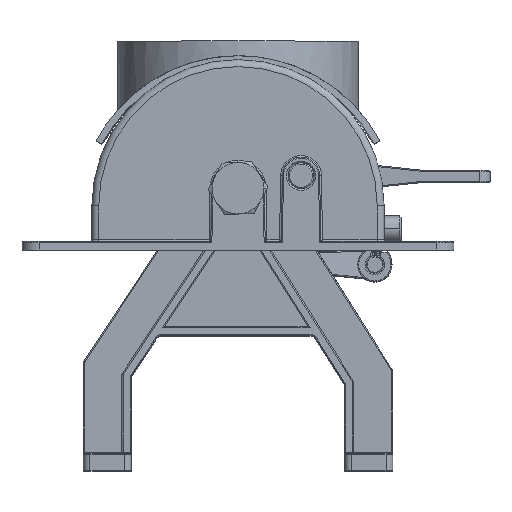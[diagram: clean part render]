
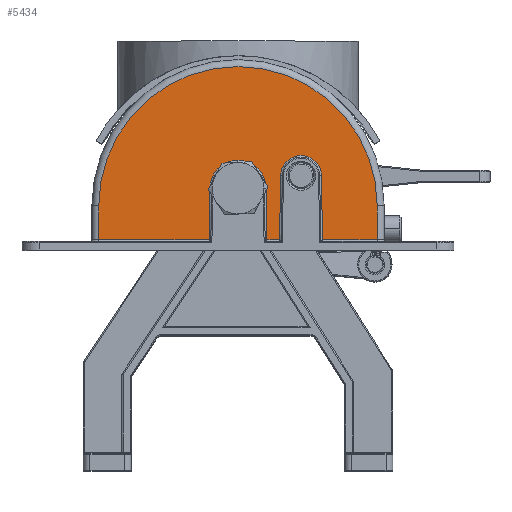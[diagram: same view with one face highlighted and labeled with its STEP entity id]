
A CAD part, top view. The second image highlights one B-rep face of the part: STEP entity #5434.
In plain terms, the highlighted planar face has unit normal (0, 0, 1).
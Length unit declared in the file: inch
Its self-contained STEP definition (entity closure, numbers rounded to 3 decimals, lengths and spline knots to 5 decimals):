
#283 = CARTESIAN_POINT ( 'NONE',  ( 1.22767, 0.15, 2.325 ) ) ;
#2090 = VERTEX_POINT ( 'NONE', #19394 ) ;
#2678 = CARTESIAN_POINT ( 'NONE',  ( -2.0225, 0.6425, 2.325 ) ) ;
#2931 = ORIENTED_EDGE ( 'NONE', *, *, #57638, .T. ) ;
#4628 = DIRECTION ( 'NONE',  ( 0.017, -1., 0. ) ) ;
#5434 = ADVANCED_FACE ( 'NONE', ( #16347 ), #38125, .F. ) ;
#5780 = CARTESIAN_POINT ( 'NONE',  ( 0.61195, 0.63182, 2.325 ) ) ;
#5895 = CARTESIAN_POINT ( 'NONE',  ( -2.0225, 0.6425, 2.325 ) ) ;
#6420 = CARTESIAN_POINT ( 'NONE',  ( 0.60354, 0.15, 2.325 ) ) ;
#7399 = EDGE_CURVE ( 'NONE', #15421, #12573, #35402, .T. ) ;
#7702 = VERTEX_POINT ( 'NONE', #58867 ) ;
#7752 = CARTESIAN_POINT ( 'NONE',  ( -2.0225, 0.15, 2.325 ) ) ;
#8085 = VERTEX_POINT ( 'NONE', #23715 ) ;
#8400 = CARTESIAN_POINT ( 'NONE',  ( 0., 0.6425, 2.325 ) ) ;
#8575 = ORIENTED_EDGE ( 'NONE', *, *, #34601, .T. ) ;
#9770 = DIRECTION ( 'NONE',  ( 1., 0., 0. ) ) ;
#9914 = VERTEX_POINT ( 'NONE', #15376 ) ;
#10297 = DIRECTION ( 'NONE',  ( -1., 0., 0. ) ) ;
#10746 = ORIENTED_EDGE ( 'NONE', *, *, #7399, .T. ) ;
#11886 = CARTESIAN_POINT ( 'NONE',  ( 0., 0.15, 2.325 ) ) ;
#12382 = CARTESIAN_POINT ( 'NONE',  ( 0.41957, 0.15, 2.325 ) ) ;
#12385 = VERTEX_POINT ( 'NONE', #12382 ) ;
#12534 = VECTOR ( 'NONE', #9770, 39.37008 ) ;
#12573 = VERTEX_POINT ( 'NONE', #29318 ) ;
#13193 = ORIENTED_EDGE ( 'NONE', *, *, #41985, .T. ) ;
#13450 = EDGE_CURVE ( 'NONE', #2090, #55226, #19257, .T. ) ;
#14423 = AXIS2_PLACEMENT_3D ( 'NONE', #56360, #34268, #33694 ) ;
#15376 = CARTESIAN_POINT ( 'NONE',  ( 2.0225, 0.6425, 2.325 ) ) ;
#15387 = LINE ( 'NONE', #5895, #19431 ) ;
#15421 = VERTEX_POINT ( 'NONE', #7752 ) ;
#16347 = FACE_OUTER_BOUND ( 'NONE', #16563, .T. ) ;
#16460 = DIRECTION ( 'NONE',  ( 0.017, 1., 0. ) ) ;
#16563 = EDGE_LOOP ( 'NONE', ( #13193, #10746, #44660, #46158, #32800, #31797, #28315, #36072, #8575, #47466, #2931, #29937 ) ) ;
#18713 = CARTESIAN_POINT ( 'NONE',  ( 0., 0.15, 2.325 ) ) ;
#19257 = CIRCLE ( 'NONE', #32658, 0.40644 ) ;
#19329 = VECTOR ( 'NONE', #43772, 39.37008 ) ;
#19394 = CARTESIAN_POINT ( 'NONE',  ( -0.40638, 0.90565, 2.325 ) ) ;
#19431 = VECTOR ( 'NONE', #28858, 39.37008 ) ;
#19461 = DIRECTION ( 'NONE',  ( 0.017, 1., 0. ) ) ;
#19582 = CIRCLE ( 'NONE', #53027, 2.0225 ) ;
#20891 = CARTESIAN_POINT ( 'NONE',  ( -0.41085, 0.64967, 2.325 ) ) ;
#20965 = DIRECTION ( 'NONE',  ( -1., 0., 0. ) ) ;
#22529 = EDGE_CURVE ( 'NONE', #12385, #34433, #40228, .T. ) ;
#23521 = AXIS2_PLACEMENT_3D ( 'NONE', #56244, #38029, #56858 ) ;
#23659 = LINE ( 'NONE', #5780, #31007 ) ;
#23715 = CARTESIAN_POINT ( 'NONE',  ( 2.0225, 0.15, 2.325 ) ) ;
#24078 = LINE ( 'NONE', #41738, #42244 ) ;
#25556 = EDGE_CURVE ( 'NONE', #9914, #56636, #19582, .T. ) ;
#26013 = VECTOR ( 'NONE', #44663, 39.37008 ) ;
#27000 = LINE ( 'NONE', #40767, #33397 ) ;
#28315 = ORIENTED_EDGE ( 'NONE', *, *, #47877, .T. ) ;
#28858 = DIRECTION ( 'NONE',  ( 0., -1., 0. ) ) ;
#29157 = LINE ( 'NONE', #11886, #19329 ) ;
#29318 = CARTESIAN_POINT ( 'NONE',  ( -0.41957, 0.15, 2.325 ) ) ;
#29763 = CARTESIAN_POINT ( 'NONE',  ( 0.40638, 0.90565, 2.325 ) ) ;
#29937 = ORIENTED_EDGE ( 'NONE', *, *, #25556, .T. ) ;
#29988 = DIRECTION ( 'NONE',  ( 0., 0., 1. ) ) ;
#31007 = VECTOR ( 'NONE', #19461, 39.37008 ) ;
#31797 = ORIENTED_EDGE ( 'NONE', *, *, #22529, .T. ) ;
#32109 = VECTOR ( 'NONE', #4628, 39.37008 ) ;
#32658 = AXIS2_PLACEMENT_3D ( 'NONE', #41363, #55659, #10297 ) ;
#32800 = ORIENTED_EDGE ( 'NONE', *, *, #38390, .T. ) ;
#33397 = VECTOR ( 'NONE', #55059, 39.37008 ) ;
#33694 = DIRECTION ( 'NONE',  ( -1., 0., 0. ) ) ;
#34268 = DIRECTION ( 'NONE',  ( 0., 0., -1. ) ) ;
#34328 = EDGE_CURVE ( 'NONE', #7702, #44020, #55925, .T. ) ;
#34433 = VERTEX_POINT ( 'NONE', #6420 ) ;
#34601 = EDGE_CURVE ( 'NONE', #44020, #57406, #35930, .T. ) ;
#35402 = LINE ( 'NONE', #41066, #26013 ) ;
#35930 = LINE ( 'NONE', #45503, #32109 ) ;
#36072 = ORIENTED_EDGE ( 'NONE', *, *, #34328, .T. ) ;
#37624 = VECTOR ( 'NONE', #16460, 39.37008 ) ;
#38029 = DIRECTION ( 'NONE',  ( 0., 0., -1. ) ) ;
#38125 = PLANE ( 'NONE',  #14423 ) ;
#38390 = EDGE_CURVE ( 'NONE', #55226, #12385, #27000, .T. ) ;
#40228 = LINE ( 'NONE', #18713, #12534 ) ;
#40767 = CARTESIAN_POINT ( 'NONE',  ( 0.41085, 0.64967, 2.325 ) ) ;
#41066 = CARTESIAN_POINT ( 'NONE',  ( 0., 0.15, 2.325 ) ) ;
#41363 = CARTESIAN_POINT ( 'NONE',  ( 0., 0.89856, 2.325 ) ) ;
#41738 = CARTESIAN_POINT ( 'NONE',  ( 2.0225, 0.6425, 2.325 ) ) ;
#41985 = EDGE_CURVE ( 'NONE', #56636, #15421, #15387, .T. ) ;
#42244 = VECTOR ( 'NONE', #51299, 39.37008 ) ;
#42512 = EDGE_CURVE ( 'NONE', #12573, #2090, #52596, .T. ) ;
#43772 = DIRECTION ( 'NONE',  ( 1., 0., 0. ) ) ;
#44020 = VERTEX_POINT ( 'NONE', #52383 ) ;
#44660 = ORIENTED_EDGE ( 'NONE', *, *, #42512, .T. ) ;
#44663 = DIRECTION ( 'NONE',  ( 1., 0., 0. ) ) ;
#45503 = CARTESIAN_POINT ( 'NONE',  ( 1.21871, 0.66377, 2.325 ) ) ;
#46158 = ORIENTED_EDGE ( 'NONE', *, *, #13450, .T. ) ;
#47466 = ORIENTED_EDGE ( 'NONE', *, *, #57674, .T. ) ;
#47877 = EDGE_CURVE ( 'NONE', #34433, #7702, #23659, .T. ) ;
#51299 = DIRECTION ( 'NONE',  ( 0., 1., 0. ) ) ;
#52383 = CARTESIAN_POINT ( 'NONE',  ( 1.21136, 1.08436, 2.325 ) ) ;
#52596 = LINE ( 'NONE', #20891, #37624 ) ;
#53027 = AXIS2_PLACEMENT_3D ( 'NONE', #8400, #29988, #20965 ) ;
#55059 = DIRECTION ( 'NONE',  ( 0.017, -1., 0. ) ) ;
#55226 = VERTEX_POINT ( 'NONE', #29763 ) ;
#55659 = DIRECTION ( 'NONE',  ( 0., 0., -1. ) ) ;
#55925 = CIRCLE ( 'NONE', #23521, 0.2958 ) ;
#56244 = CARTESIAN_POINT ( 'NONE',  ( 0.91561, 1.0792, 2.325 ) ) ;
#56360 = CARTESIAN_POINT ( 'NONE',  ( 0., 0.6425, 2.325 ) ) ;
#56636 = VERTEX_POINT ( 'NONE', #2678 ) ;
#56858 = DIRECTION ( 'NONE',  ( -1., 0., 0. ) ) ;
#57406 = VERTEX_POINT ( 'NONE', #283 ) ;
#57638 = EDGE_CURVE ( 'NONE', #8085, #9914, #24078, .T. ) ;
#57674 = EDGE_CURVE ( 'NONE', #57406, #8085, #29157, .T. ) ;
#58867 = CARTESIAN_POINT ( 'NONE',  ( 0.61985, 1.08436, 2.325 ) ) ;
